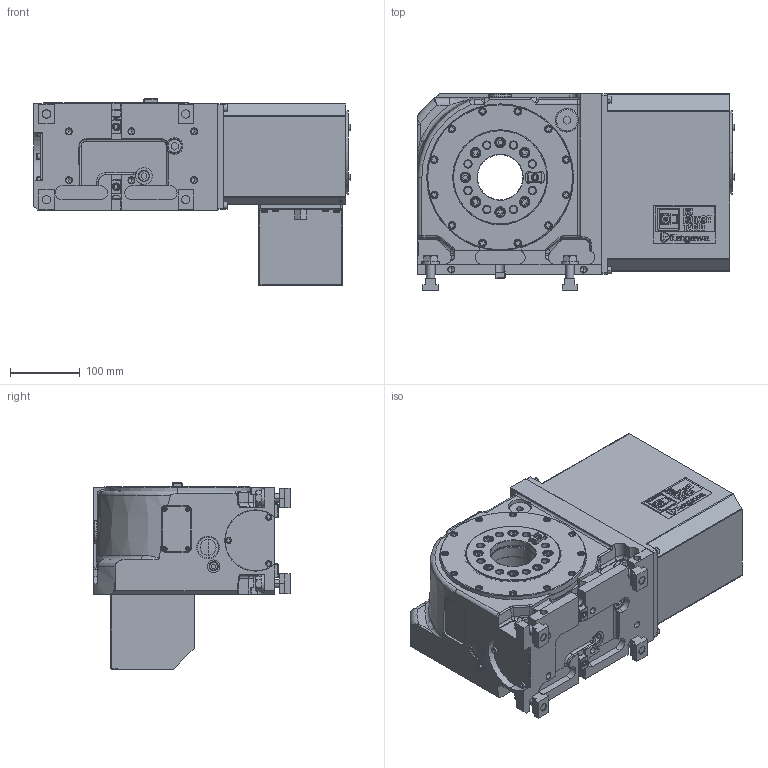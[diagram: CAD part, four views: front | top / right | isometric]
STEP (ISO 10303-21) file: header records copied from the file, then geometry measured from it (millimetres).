
FILE_DESCRIPTION (( 'STEP AP214' ), '1' );
FILE_NAME ('【掲載用】MK200付加軸右勝手.STEP', '2019-10-10T05:36:25', ( '' ), ( '' ), 'SwSTEP 2.0', 'SolidWorks 2017', '' );
FILE_SCHEMA (( 'AUTOMOTIVE_DESIGN' ));
Length unit declared in the file: millimetre
Products named in the file (27): ガイドブロック(61M4198751); クランプキミタテ(61E473251)CK160D1; オイルゲージ３０８; Tスロットナット１４１２; CKR160 チェックバルブ AKB01A-01S-×435; B パーカ　M12×40; シリンダ(61E281391); ワッシャ １２(61M4266320)VQ100; 僇僶乕A(61E445263); MK200RAFホンタイ; ベアリングプッシュプレート(61E8405391)MK200RA00_回転モデル; キタガワシール; SMC KQ2E06-02; ベース(61E1153834)MK200RA00_回転モデル; コネクタカバー(61E363968); コネクタプレート(61E4458165); 【掲載用】MK200付加軸右勝手; 僇僶乕丂俹(61E4458212)B傾僫僣僉僥僀僩僂; モータケース(61E2849280)MK200RAF01; TABLE(61E8443975)MK200RA00; アナプラグ 04; Bアナツキ M5×10; アナプラグ 02; アナプラグ 03; Bアナツキ M6×10; 僣僶僣僉僾儔僌GFO M20x1.5; ネームプレートCE（61E483267）リベットメイバン
Assembly tree (39 placements, depth 3):
  【掲載用】MK200付加軸右勝手
    MK200RAFホンタイ
      ベース(61E1153834)MK200RA00_回転モデル
      ベアリングプッシュプレート(61E8405391)MK200RA00_回転モデル
      僇僶乕A(61E445263)
      シリンダ(61E281391)
      CKR160 チェックバルブ AKB01A-01S-×435
      オイルゲージ３０８
      ガイドブロック(61M4198751)  x2
      ネームプレートCE（61E483267）リベットメイバン
      僣僶僣僉僾儔僌GFO M20x1.5  x2
      Bアナツキ M6×10  x2
      アナプラグ 03  x4
      アナプラグ 02  x3
      Bアナツキ M5×10  x3
      アナプラグ 04
      TABLE(61E8443975)MK200RA00
      モータケース(61E2849280)MK200RAF01
      僇僶乕丂俹(61E4458212)B傾僫僣僉僥僀僩僂
      コネクタプレート(61E4458165)
      コネクタカバー(61E363968)
      SMC KQ2E06-02
      キタガワシール
    クランプキミタテ(61E473251)CK160D1  x4
      ワッシャ １２(61M4266320)VQ100
      B パーカ　M12×40
      Tスロットナット１４１２
Bounding box: 453.9 x 282 x 268 mm (x, y, z)
Volume: 15123955 mm3; surface area: 1111238.8 mm2
Topology: 45 solids, 46 shells, 3584 faces, 9205 edges, 5932 vertices
Faces by surface type: plane 2330, cylinder 777, cone 378, bspline 39, torus 39, sphere 21
Entity records: 113672 total; most frequent: CARTESIAN_POINT 20078, ORIENTED_EDGE 17072, DIRECTION 16781, EDGE_CURVE 8536, LINE 6547, VECTOR 6547, VERTEX_POINT 5560, AXIS2_PLACEMENT_3D 5117
